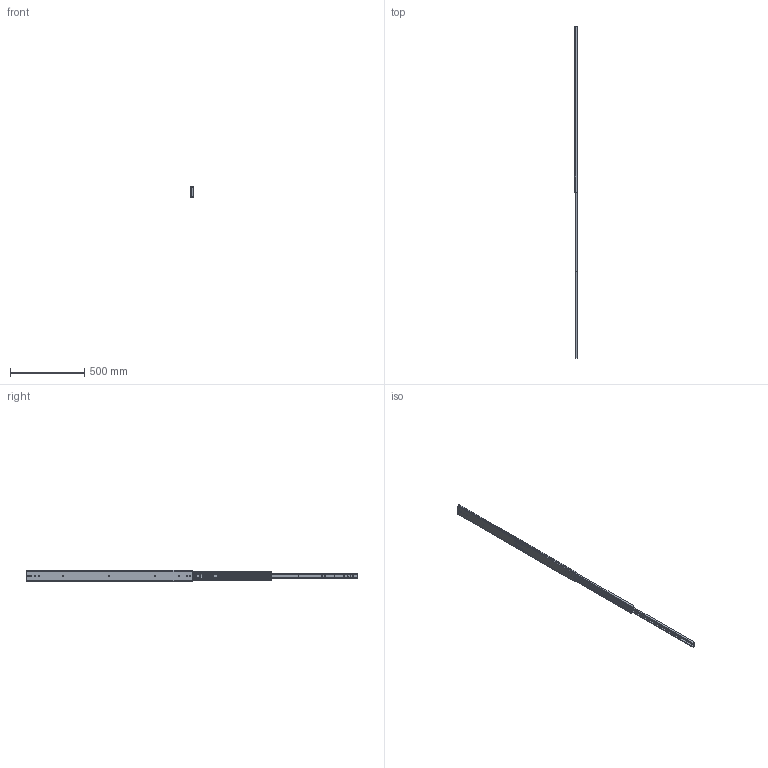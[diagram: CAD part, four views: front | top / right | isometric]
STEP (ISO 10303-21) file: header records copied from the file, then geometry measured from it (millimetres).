
FILE_DESCRIPTION(/* description */ ('Unknown'),/* implementation_level */ '2;1');
FILE_NAME(/* name */ '76J01-44 open',/* time_stamp */ '2024-07-26T16:36:04+08:00',/* author */ ('Unknown'),/* organization */ ('Unknown'),/* preprocessor_version */ 'ST-DEVELOPER v18.104',/* originating_system */ 'Solid Edge',/* authorisation */ 'Unknown');
FILE_SCHEMA (('AUTOMOTIVE_DESIGN {1 0 10303 214 3 1 1}'));
Length unit declared in the file: millimetre
Products named in the file (4): 76J01-44 open; 76J01 44 inch 內_0; 76J01 44 吋中_; 76J01 44 嬪
Assembly tree (3 placements, depth 2):
  76J01-44 open
    76J01 44 inch 內_0
    76J01 44 吋中_
    76J01 44 嬪
Bounding box: 19.3 x 2234.5 x 76.76 mm (x, y, z)
Volume: 880978 mm3; surface area: 548119.7 mm2
Topology: 3 solids, 3 shells, 194 faces, 599 edges, 405 vertices
Faces by surface type: plane 104, cylinder 90
Full cylindrical faces by diameter (mm): 5.2 x15, 7.1 x2
Entity records: 7096 total; most frequent: CARTESIAN_POINT 1154, DIRECTION 1141, ORIENTED_EDGE 1130, EDGE_CURVE 565, VERTEX_POINT 388, LINE 383, VECTOR 383, AXIS2_PLACEMENT_3D 379
